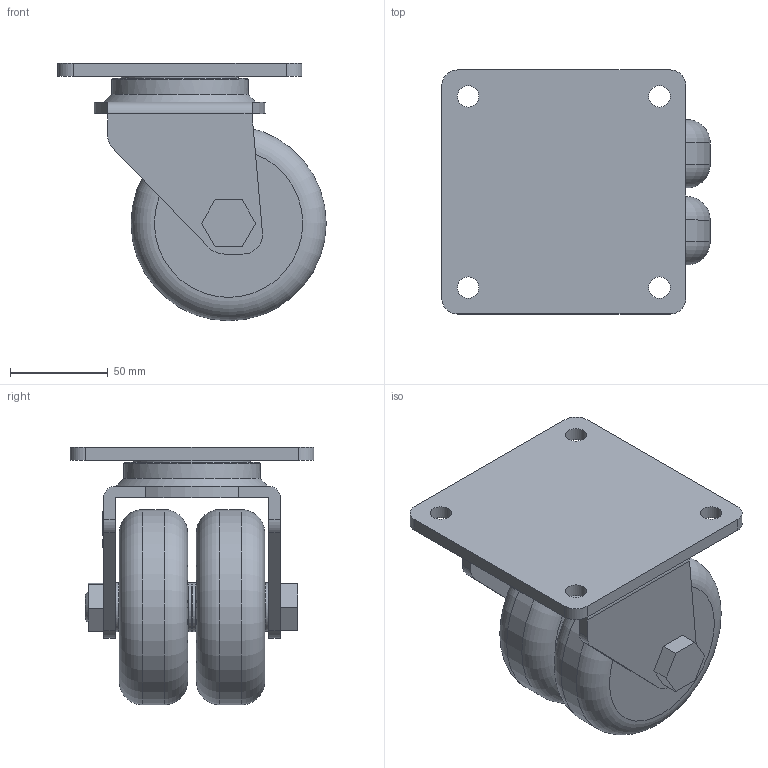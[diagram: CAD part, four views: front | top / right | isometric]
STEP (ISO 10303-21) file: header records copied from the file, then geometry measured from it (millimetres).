
FILE_DESCRIPTION(/* description */ (''),/* implementation_level */ '2;1');
FILE_NAME(/* name */ '90A05_4_R.stp',/* time_stamp */ '2022-10-07T12:09:24+08:00',/* author */ (''),/* organization */ (''),/* preprocessor_version */ 'ST-DEVELOPER v14',/* originating_system */ 'SIEMENS PLM Software NX 8.0',/* authorisation */ '');
FILE_SCHEMA (('AUTOMOTIVE_DESIGN { 1 0 10303 214 3 1 1 1 }'));
Length unit declared in the file: millimetre
Products named in the file (1): 90A05_4_R
Bounding box: 137.5 x 125 x 132 mm (x, y, z)
Volume: 754115.9 mm3; surface area: 133057.4 mm2
Topology: 1 solids, 6 shells, 353 faces, 894 edges, 591 vertices
Faces by surface type: plane 222, cylinder 68, bspline 30, cone 16, torus 10, revolution 5, extrusion 2
Full cylindrical faces by diameter (mm): 11 x4, 12 x1, 16 x2, 16.3 x2, 17.142 x1, 20 x4, 24.608 x1, 25 x4, 28 x1, 40 x1, 60 x2, 62.5 x1, 70 x1, 100 x2
Entity records: 11655 total; most frequent: CARTESIAN_POINT 4020, ORIENTED_EDGE 1630, DIRECTION 1294, EDGE_CURVE 815, VERTEX_POINT 574, AXIS2_PLACEMENT_3D 479, EDGE_LOOP 473, ADVANCED_FACE 353
